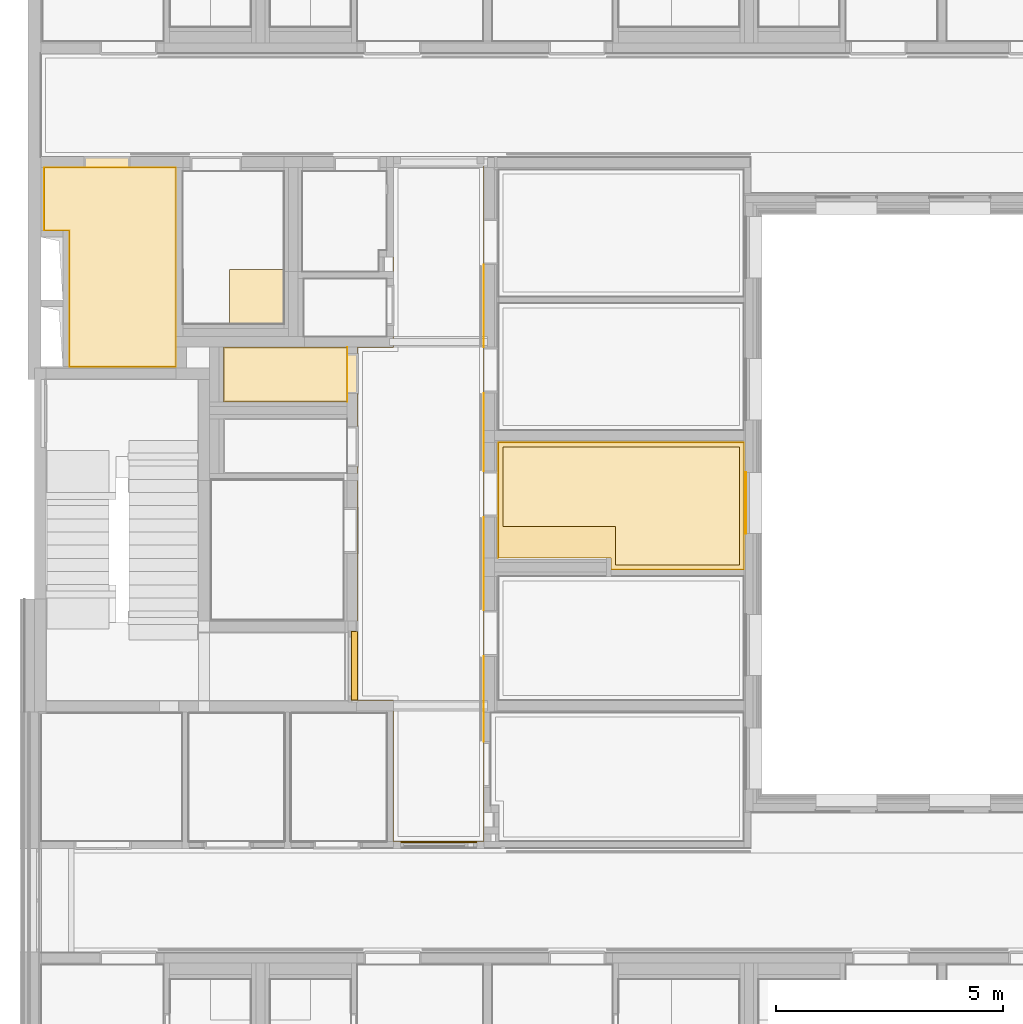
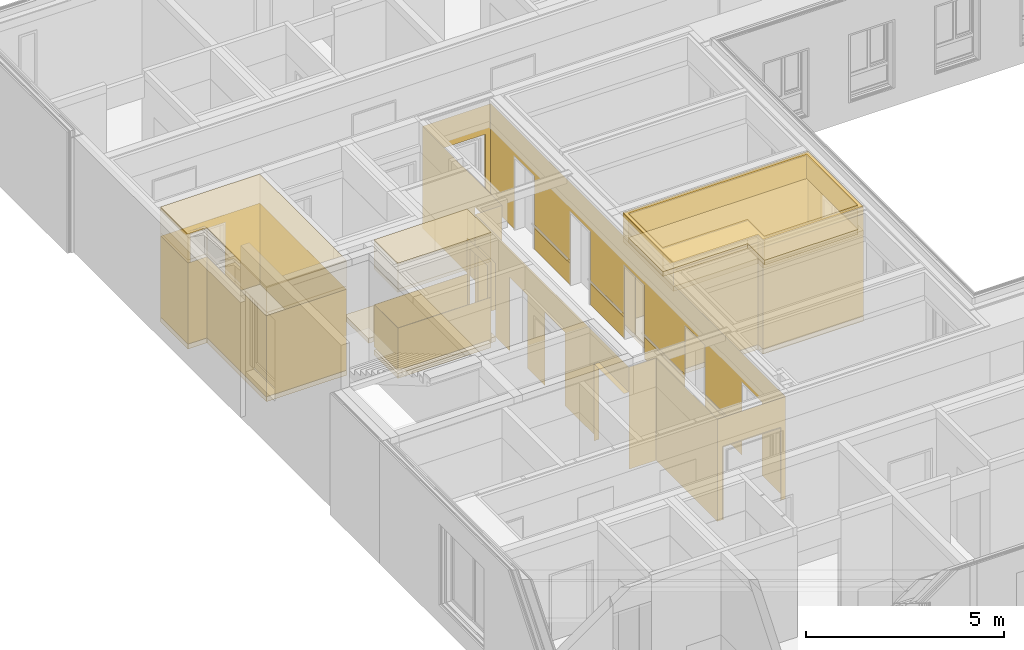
# One storey, part 160 of 222: 24 coverings.
"""IFC4 building model written with IfcOpenShell, lengths in metres."""

from ifc_helpers import new_model, entity, si_unit, converted_unit, derived_unit, frame, frame_2d, origin, origin_with_axes, place, context, subcontext, project, spatial, polyline, rectangle, outline, extrude, material, layer, layer_set, layer_usage, element, save


model = new_model("IFC4")

# Units and contexts
model_context = context("Model", 3, precision=1e-05, world=origin())
body_context = subcontext(model_context, "Body", "Model", "MODEL_VIEW")
ifc_project = project(units=[si_unit("LENGTHUNIT", "METRE"), si_unit("AREAUNIT", "SQUARE_METRE"), si_unit("VOLUMEUNIT", "CUBIC_METRE"), si_unit("MASSUNIT", "GRAM", prefix="KILO"), converted_unit("PLANEANGLEUNIT", "DEGREE", entity("IfcPlaneAngleMeasure", 0.0174532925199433), si_unit("PLANEANGLEUNIT", "RADIAN"), dimensions=[0, 0, 0, 0, 0, 0, 0]), derived_unit("THERMALTRANSMITTANCEUNIT", [(si_unit("POWERUNIT", "WATT"), 1), (si_unit("THERMODYNAMICTEMPERATUREUNIT", "KELVIN"), -1), (si_unit("LENGTHUNIT", "METRE"), -2)]), derived_unit("VOLUMETRICFLOWRATEUNIT", [(si_unit("LENGTHUNIT", "METRE"), 3), (converted_unit("TIMEUNIT", "hour", entity("IfcTimeMeasure", 3600.0), si_unit("TIMEUNIT", "SECOND"), dimensions=[0, 0, 1, 0, 0, 0, 0]), -1), (si_unit("LENGTHUNIT", "METRE"), -1)])], contexts=[model_context])

# Site, building, storey, space
site_placement = place(None, origin())
site = spatial("IfcSite", under=ifc_project, at=site_placement, Name="Psychiatrie Neubau Wunstorf", CompositionType="ELEMENT")
building_placement = place(site_placement, origin())
building = spatial("IfcBuilding", under=site, at=building_placement, Name="Neubau H2 Stationsgebäude", CompositionType="ELEMENT")
storey_placement = place(building_placement, frame((0.0, 0.0, 3.6)))
storey = spatial("IfcBuildingStorey", under=building, at=storey_placement, Name="H2 Ebene +1", CompositionType="ELEMENT", Elevation=3.6)
space_1_placement = place(storey_placement, frame((7.1409987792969, 6.7749998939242, 0.0)))
space_1 = spatial("IfcSpace", under=storey, at=space_1_placement, Name="WUN-H2-E01-073", CompositionType="ELEMENT")

# Coverings
ifc_material_1 = material(Name="97")
ifc_layer_1 = layer(ifc_material_1, 0.001)
ifc_layer_set_1 = layer_set([ifc_layer_1])
ifc_layer_usage_1 = layer_usage(ifc_layer_set_1, "AXIS3", "POSITIVE", 0.0)
covering_1_placement = place(space_1_placement, frame((2.77650123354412, 2.19999999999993, 0.8)))
element("IfcCovering", 1, at=covering_1_placement, inside=space_1, material=ifc_layer_usage_1, Name="Handlauf", PredefinedType="CLADDING", context=body_context, shape_type="SweptSolid", body=[
    extrude(rectangle(XDim=0.1, YDim=2.0539998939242, at=frame_2d((1.0269999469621, 0.05), x_axis=(-1.81898940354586e-14, 1.0))), frame((0.0, 2.88600010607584, 0.1), z_axis=(-1.0, -1.65349244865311e-09, -1.49091137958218e-23), x_axis=(-1.65349244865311e-09, 1.0, 0.0)), (0.0, 0.0, 1.0), 0.001),
    extrude(rectangle(XDim=0.1, YDim=1.87600010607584, at=frame_2d((-0.938000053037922, -0.05), x_axis=(-1.81898940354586e-14, -1.0))), frame((0.0, 1.87600010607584, 0.0), z_axis=(-1.0, -1.65349181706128e-09, -9.09494703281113e-15), x_axis=(-1.65349181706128e-09, 1.0, 0.0)), (0.0, 0.0, 1.0), 0.001),
    extrude(rectangle(XDim=0.1, YDim=1.71901332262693, at=frame_2d((0.859506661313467, 0.05), x_axis=(1.81898940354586e-14, 1.0))), frame((0.0, 5.95000000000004, 0.1), z_axis=(-1.0, -1.65349193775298e-09, -1.50877536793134e-23), x_axis=(-1.65349193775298e-09, 1.0, 0.0)), (0.0, 0.0, 1.0), 0.001),
    extrude(rectangle(XDim=0.1, YDim=1.81398678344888, at=frame_2d((0.906993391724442, 0.05), x_axis=(0.0, 1.0))), frame((0.0, 8.67901332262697, 0.1), z_axis=(-1.0, -1.65349146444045e-09, 0.0), x_axis=(-1.65349146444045e-09, 1.0, 0.0)), (0.0, 0.0, 1.0), 0.001),
])
ifc_material_2 = material(Name="49")
ifc_layer_2 = layer(ifc_material_2, 0.001)
ifc_layer_set_2 = layer_set([ifc_layer_2])
ifc_layer_usage_2 = layer_usage(ifc_layer_set_2, "AXIS3", "POSITIVE", 0.0)
covering_2_placement = place(space_1_placement, frame((-0.145000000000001, -0.0300000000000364, 0.15)))
element("IfcCovering", 2, at=covering_2_placement, inside=space_1, material=ifc_layer_usage_2, PredefinedType="CLADDING", context=body_context, shape_type="SweptSolid", body=[
    extrude(outline(polyline([(0.0, 3.15), (2.66598984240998, 3.15), (2.66598984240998, 0.89), (3.55098994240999, 0.89), (3.55098994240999, 3.15), (4.01598546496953, 3.15), (4.01598546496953, 0.0), (0.0, 0.0), (0.0, 3.15)])), frame((0.929001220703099, 14.9360001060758, 3.15), z_axis=(1.0, -2.25099383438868e-16, -2.97473032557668e-17), x_axis=(-2.25099383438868e-16, -1.0, 0.0)), (0.0, 0.0, 1.0), 0.001),
    extrude(rectangle(XDim=0.0110013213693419, YDim=3.15, at=frame_2d((0.00550066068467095, -1.575), x_axis=(1.0, 0.0))), frame((0.929001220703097, 10.9200146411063, 0.0), z_axis=(0.999999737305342, -0.000724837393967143, 1.00116312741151e-22), x_axis=(-0.000724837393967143, -0.999999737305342, 0.0)), (0.0, 0.0, 1.0), 0.001),
    extrude(rectangle(XDim=0.783993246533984, YDim=3.15, at=frame_2d((0.391996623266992, -1.575), x_axis=(1.0, 0.0))), frame((0.928993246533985, 10.9090133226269, 0.0), z_axis=(0.0, -1.0, 0.0), x_axis=(-1.0, 0.0, 0.0)), (0.0, 0.0, 1.0), 0.001),
    extrude(outline(polyline([(0.0, 3.15), (0.138998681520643, 3.15), (0.138998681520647, 0.89), (1.02399868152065, 0.89), (1.02399868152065, 3.15), (1.74400000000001, 3.15), (1.74400000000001, 0.89), (2.62900000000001, 0.89), (2.62900000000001, 3.15), (3.52901332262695, 3.15), (3.52901332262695, 0.89), (4.53901332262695, 0.89), (4.53901332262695, 3.15), (6.24901332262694, 3.15), (6.24901332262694, 0.77), (7.77201014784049, 0.77), (7.77201014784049, 0.0), (0.0, 0.0), (0.0, 3.15)])), frame((0.144999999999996, 10.9090133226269, 3.15), z_axis=(1.0, -2.99583884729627e-16, 3.14580607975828e-15), x_axis=(-2.99583884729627e-16, -1.0, 0.0)), (0.0, 0.0, 1.0), 0.001),
    extrude(rectangle(XDim=0.784001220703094, YDim=3.15, at=frame_2d((0.392000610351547, -1.575), x_axis=(1.0, 0.0))), frame((0.145000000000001, 3.13700317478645, 0.0), z_axis=(0.0, 1.0, 0.0), x_axis=(1.0, 0.0, 0.0)), (0.0, 0.0, 1.0), 0.001),
    extrude(rectangle(XDim=3.10700317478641, YDim=3.15, at=frame_2d((1.55350158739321, -1.575), x_axis=(1.0, 0.0))), frame((0.929001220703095, 3.13700317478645, 0.0), z_axis=(1.0, -8.78172293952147e-16, 0.0), x_axis=(-8.78172293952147e-16, -1.0, 0.0)), (0.0, 0.0, 1.0), 0.001),
    extrude(rectangle(XDim=0.00500000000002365, YDim=3.15, at=frame_2d((0.00250000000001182, -1.575), x_axis=(1.0, 0.0))), frame((0.929001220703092, 0.0300000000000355, 0.0), z_axis=(-0.999999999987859, 4.9277376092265e-06, 0.0), x_axis=(4.9277376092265e-06, 0.999999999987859, 0.0)), (0.0, 0.0, 1.0), 0.001),
    extrude(outline(polyline([(0.0, 3.15), (0.154999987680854, 3.15), (0.154999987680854, 0.89), (1.83749998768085, 0.89), (1.83749998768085, 3.15), (1.9925, 3.15), (1.9925, 0.0), (0.0, 0.0), (0.0, 3.15)])), frame((0.92900124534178, 0.035, 3.15), z_axis=(0.0, 1.0, 0.0), x_axis=(1.0, 0.0, 0.0)), (0.0, 0.0, 1.0), 0.001),
    extrude(outline(polyline([(0.0, 3.15), (1.18499999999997, 3.15), (1.18499999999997, 0.89), (2.19499999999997, 0.89), (2.19499999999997, 2.4), (4.07100010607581, 2.4), (4.07100010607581, 0.89), (5.08100010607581, 0.89), (5.08100010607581, 2.4), (7.13500000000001, 2.4), (7.13500000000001, 0.89), (8.145, 0.89), (8.14500000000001, 2.4), (9.86401332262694, 2.4), (9.86401332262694, 0.89), (10.8740133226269, 0.89), (10.8740133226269, 2.4), (12.6880001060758, 2.4), (12.6880001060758, 0.89), (13.6980001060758, 0.89), (13.6980001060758, 3.15), (14.9010001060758, 3.15), (14.9010001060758, 0.0), (0.0, 0.0), (0.0, 3.15)])), frame((2.92150124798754, 0.035, 3.15), z_axis=(-1.0, -2.66314327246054e-10, 2.82421597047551e-09), x_axis=(-2.66314327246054e-10, 1.0, 0.0)), (0.0, 0.0, 1.0), 0.001),
    extrude(rectangle(XDim=0.65, YDim=2.0539998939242, at=frame_2d((1.0269999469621, 0.325), x_axis=(2.79844523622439e-15, 1.0))), frame((2.92150123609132, 5.11600010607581, 0.65), z_axis=(-1.0, -8.26745781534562e-10, -1.55377375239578e-08), x_axis=(-8.26745781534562e-10, 1.0, 0.0)), (0.0, 0.0, 1.0), 0.001),
    extrude(rectangle(XDim=0.65, YDim=1.87600010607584, at=frame_2d((0.938000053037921, 0.325), x_axis=(0.0, 1.0))), frame((2.92150124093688, 2.22999999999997, 0.65), z_axis=(-1.0, -8.26746150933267e-10, -7.96983211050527e-09), x_axis=(-8.26746150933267e-10, 1.0, 0.0)), (0.0, 0.0, 1.0), 0.001),
    extrude(rectangle(XDim=0.65, YDim=1.71901332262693, at=frame_2d((0.859506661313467, 0.325), x_axis=(2.7984452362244e-15, 1.0))), frame((2.92150123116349, 8.18, 0.649999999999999), z_axis=(-1.0, -8.2674596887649e-10, -2.29059682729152e-08), x_axis=(-8.2674596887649e-10, 1.0, 0.0)), (0.0, 0.0, 1.0), 0.001),
    extrude(rectangle(XDim=0.650000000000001, YDim=1.81398678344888, at=frame_2d((-0.906993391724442, -0.325), x_axis=(0.0, -1.0))), frame((2.92150124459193, 12.7230001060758, 0.0), z_axis=(-1.0, -8.26746233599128e-10, -2.99689208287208e-08), x_axis=(-8.26746233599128e-10, 1.0, 0.0)), (0.0, 0.0, 1.0), 0.001),
    extrude(outline(polyline([(0.0, 3.15), (0.155000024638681, 3.15), (0.155000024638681, 0.89), (1.83750002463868, 0.89), (1.83750002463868, 3.15), (1.99250002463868, 3.15), (1.99250002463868, 0.0), (0.0, 0.0), (0.0, 3.15)])), frame((2.92150124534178, 14.9360001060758, 3.15), z_axis=(0.0, -1.0, 0.0), x_axis=(-1.0, 0.0, 0.0)), (0.0, 0.0, 1.0), 0.001),
    extrude(rectangle(XDim=1.52299682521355, YDim=0.144999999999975, at=frame_2d((0.0724999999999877, 0.761498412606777), x_axis=(0.0, 1.0))), frame((0.0, 4.66, 2.38), z_axis=(0.0, 0.0, -1.0), x_axis=(1.0, 0.0, 0.0)), (0.0, 0.0, 1.0), 0.001),
    extrude(rectangle(XDim=0.144999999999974, YDim=2.38, at=frame_2d((0.0724999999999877, -1.19), x_axis=(1.0, 0.0))), frame((0.144999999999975, 4.66, 0.0), z_axis=(0.0, -1.0, 0.0), x_axis=(-1.0, 0.0, 0.0)), (0.0, 0.0, 1.0), 0.001),
    extrude(rectangle(XDim=0.035, YDim=2.26, at=frame_2d((0.0175, -1.13), x_axis=(1.0, 0.0))), frame((1.08400123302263, 0.035, 0.0), z_axis=(1.0, 0.0, 0.0), x_axis=(0.0, -1.0, 0.0)), (0.0, 0.0, 1.0), 0.001),
    extrude(rectangle(XDim=1.6825, YDim=0.035, at=frame_2d((-0.84125, 0.0175), x_axis=(-1.0, 0.0))), frame((2.76650123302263, 0.035, 2.26), z_axis=(0.0, 0.0, -1.0), x_axis=(1.0, 0.0, 0.0)), (0.0, 0.0, 1.0), 0.001),
    extrude(rectangle(XDim=2.26, YDim=0.035, at=frame_2d((0.0175, 1.13), x_axis=(0.0, 1.0))), frame((2.76650123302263, 0.0, 2.26), z_axis=(-1.0, 0.0, 0.0), x_axis=(0.0, 1.0, 0.0)), (0.0, 0.0, 1.0), 0.001),
    extrude(rectangle(XDim=0.035, YDim=2.26, at=frame_2d((0.0175, -1.13), x_axis=(1.0, 0.0))), frame((2.7665012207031, 14.9360001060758, 0.0), z_axis=(-1.0, 0.0, 0.0), x_axis=(0.0, 1.0, 0.0)), (0.0, 0.0, 1.0), 0.001),
    extrude(rectangle(XDim=1.6825, YDim=0.035, at=frame_2d((0.84125, -0.0175), x_axis=(1.0, 0.0))), frame((1.0840012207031, 14.9360001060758, 2.26), z_axis=(0.0, 0.0, -1.0), x_axis=(1.0, 0.0, 0.0)), (0.0, 0.0, 1.0), 0.001),
    extrude(rectangle(XDim=2.26, YDim=0.0349999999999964, at=frame_2d((0.0175, 1.13), x_axis=(1.60972513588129e-15, 1.0))), frame((1.0840012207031, 14.9710001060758, 2.26), z_axis=(1.0, 1.29927814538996e-14, -2.01215641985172e-16), x_axis=(1.29927814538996e-14, -1.0, 0.0)), (0.0, 0.0, 1.0), 0.001),
])

# Space
space_2_placement = place(storey_placement, frame((10.2390000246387, 12.761, 0.0)))
space_2 = spatial("IfcSpace", under=storey, at=space_2_placement, Name="WUN-H2-E01-035", CompositionType="ELEMENT")

# Coverings
ifc_material_3 = material()
ifc_layer_3 = layer(ifc_material_3, 0.036)
ifc_layer_set_3 = layer_set([ifc_layer_3])
ifc_layer_usage_3 = layer_usage(ifc_layer_set_3, "AXIS3", "POSITIVE", 0.0)
covering_3_placement = place(space_2_placement, frame((0.1, 0.100000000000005, 3.55)))
element("IfcCovering", 3, at=covering_3_placement, inside=space_2, material=ifc_layer_usage_3, Name="Gipsfaserplatten 2-lagig (BSK)", PredefinedType="CEILING", context=body_context, shape_type="SweptSolid", body=[
    extrude(outline(polyline([(0.0, 0.0), (5.19999997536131, 0.0), (5.19999997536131, 2.5925), (2.4734999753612, 2.5924999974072), (2.4734999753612, 1.74250021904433), (0.0, 1.74250022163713), (0.0, 0.0)])), frame((0.0, 2.5925, 0.0), z_axis=(0.0, 0.0, -1.0), x_axis=(1.0, 0.0, 0.0)), (0.0, 0.0, 1.0), 0.036),
])
ifc_material_4 = material(Name="Installationshöhe")
ifc_layer_4 = layer(ifc_material_4, 0.714)
ifc_layer_set_4 = layer_set([ifc_layer_4])
ifc_layer_usage_4 = layer_usage(ifc_layer_set_4, "AXIS3", "POSITIVE", 0.0)
covering_4_placement = place(space_2_placement, frame((0.1, 0.100000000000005, 3.514)))
element("IfcCovering", 4, at=covering_4_placement, inside=space_2, material=ifc_layer_usage_4, Name="Gipsfaserplatten 2-lagig (BSK)", PredefinedType="CEILING", context=body_context, shape_type="SweptSolid", body=[
    extrude(outline(polyline([(0.0, 0.0), (5.19999997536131, 0.0), (5.19999997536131, 2.5925), (2.4734999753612, 2.5924999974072), (2.4734999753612, 1.74250021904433), (0.0, 1.74250022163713), (0.0, 0.0)])), frame((0.0, 2.5925, 0.0), z_axis=(0.0, 0.0, -1.0), x_axis=(1.0, 0.0, 0.0)), (0.0, 0.0, 1.0), 0.714),
])
ifc_material_5 = material(Name="Aa")
ifc_layer_5 = layer(ifc_material_5, 0.15)
ifc_layer_set_5 = layer_set([ifc_layer_5])
ifc_layer_usage_5 = layer_usage(ifc_layer_set_5, "AXIS3", "POSITIVE", 0.0)
covering_5_placement = place(space_2_placement, frame((0.1, 0.100000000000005, 2.8)))
element("IfcCovering", 5, at=covering_5_placement, inside=space_2, material=ifc_layer_usage_5, Name="Gipsfaserplatten 2-lagig (BSK)", PredefinedType="CEILING", context=body_context, shape_type="SweptSolid", body=[
    extrude(outline(polyline([(0.0, 0.0), (5.19999997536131, 0.0), (5.19999997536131, 2.5925), (2.4734999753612, 2.5924999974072), (2.4734999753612, 1.74250021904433), (0.0, 1.74250022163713), (0.0, 0.0)])), frame((0.0, 2.5925, 0.0), z_axis=(0.0, 0.0, -1.0), x_axis=(1.0, 0.0, 0.0)), (0.0, 0.0, 1.0), 0.15),
])
ifc_material_6 = material(Name="D1")
ifc_layer_6 = layer(ifc_material_6, 0.001)
ifc_layer_set_6 = layer_set([ifc_layer_6])
ifc_layer_usage_6 = layer_usage(ifc_layer_set_6, "AXIS3", "POSITIVE", 0.0)
covering_6_placement = place(space_2_placement, frame((0.1, 0.100000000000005, 2.65)))
element("IfcCovering", 6, at=covering_6_placement, inside=space_2, material=ifc_layer_usage_6, Name="Gipsfaserplatten 2-lagig (BSK)", PredefinedType="CEILING", context=body_context, shape_type="SweptSolid", body=[
    extrude(outline(polyline([(0.0, 0.0), (5.19999997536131, 0.0), (5.19999997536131, 2.5925), (2.4734999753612, 2.5924999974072), (2.4734999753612, 1.74250021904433), (0.0, 1.74250022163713), (0.0, 0.0)])), frame((0.0, 2.5925, 0.0), z_axis=(0.0, 0.0, -1.0), x_axis=(1.0, 0.0, 0.0)), (0.0, 0.0, 1.0), 0.001),
])
ifc_material_7 = material()
ifc_layer_7 = layer(ifc_material_7, 0.036)
ifc_layer_set_7 = layer_set([ifc_layer_7])
ifc_layer_usage_7 = layer_usage(ifc_layer_set_7, "AXIS3", "POSITIVE", 0.0)
covering_7_placement = place(space_2_placement, frame((0.0, 0.0, 3.55)))
element("IfcCovering", 7, at=covering_7_placement, inside=space_2, material=ifc_layer_usage_7, Name="Gipsfaserplatten 2-lagig (BSK)", PredefinedType="CEILING", context=body_context, shape_type="SweptSolid", body=[
    extrude(outline(polyline([(0.0, 0.0), (5.39999997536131, 0.0), (5.39999997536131, 2.7925), (2.4734999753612, 2.7925), (2.4734999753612, 2.54249999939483), (0.0, 2.54249999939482), (0.0, 0.0)]), holes=[polyline([(0.1, 1.84250042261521), (2.5734999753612, 1.84250021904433), (2.5734999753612, 2.6924999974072), (5.29999997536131, 2.6925), (5.29999997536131, 0.1), (0.1, 0.1), (0.1, 1.84250042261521)])]), frame((0.0, 2.7925, 0.0), z_axis=(0.0, 0.0, -1.0), x_axis=(1.0, 0.0, 0.0)), (0.0, 0.0, 1.0), 0.036),
])
ifc_material_8 = material(Name="Installationshöhe")
ifc_layer_8 = layer(ifc_material_8, 0.714)
ifc_layer_set_8 = layer_set([ifc_layer_8])
ifc_layer_usage_8 = layer_usage(ifc_layer_set_8, "AXIS3", "POSITIVE", 0.0)
covering_8_placement = place(space_2_placement, frame((0.0, 0.0, 3.514)))
element("IfcCovering", 8, at=covering_8_placement, inside=space_2, material=ifc_layer_usage_8, Name="Gipsfaserplatten 2-lagig (BSK)", PredefinedType="CEILING", context=body_context, shape_type="SweptSolid", body=[
    extrude(outline(polyline([(0.0, 0.0), (5.39999997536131, 0.0), (5.39999997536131, 2.7925), (2.4734999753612, 2.7925), (2.4734999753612, 2.54249999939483), (0.0, 2.54249999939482), (0.0, 0.0)]), holes=[polyline([(0.1, 1.84250042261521), (2.5734999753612, 1.84250021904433), (2.5734999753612, 2.6924999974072), (5.29999997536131, 2.6925), (5.29999997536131, 0.1), (0.1, 0.1), (0.1, 1.84250042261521)])]), frame((0.0, 2.7925, 0.0), z_axis=(0.0, 0.0, -1.0), x_axis=(1.0, 0.0, 0.0)), (0.0, 0.0, 1.0), 0.714),
])
ifc_material_9 = material(Name="A1")
ifc_layer_9 = layer(ifc_material_9, 0.15)
ifc_layer_set_9 = layer_set([ifc_layer_9])
ifc_layer_usage_9 = layer_usage(ifc_layer_set_9, "AXIS3", "POSITIVE", 0.0)
covering_9_placement = place(space_2_placement, frame((0.0, 0.0, 2.8)))
element("IfcCovering", 9, at=covering_9_placement, inside=space_2, material=ifc_layer_usage_9, Name="Gipsfaserplatten 2-lagig (BSK)", PredefinedType="CEILING", context=body_context, shape_type="SweptSolid", body=[
    extrude(outline(polyline([(0.0, 0.0), (5.39999997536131, 0.0), (5.39999997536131, 2.7925), (2.4734999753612, 2.7925), (2.4734999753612, 2.54249999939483), (0.0, 2.54249999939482), (0.0, 0.0)]), holes=[polyline([(0.1, 1.84250042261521), (2.5734999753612, 1.84250021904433), (2.5734999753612, 2.6924999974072), (5.29999997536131, 2.6925), (5.29999997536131, 0.1), (0.1, 0.1), (0.1, 1.84250042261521)])]), frame((0.0, 2.7925, 0.0), z_axis=(0.0, 0.0, -1.0), x_axis=(1.0, 0.0, 0.0)), (0.0, 0.0, 1.0), 0.15),
])
ifc_material_10 = material(Name="D1")
ifc_layer_10 = layer(ifc_material_10, 0.001)
ifc_layer_set_10 = layer_set([ifc_layer_10])
ifc_layer_usage_10 = layer_usage(ifc_layer_set_10, "AXIS3", "POSITIVE", 0.0)
covering_10_placement = place(space_2_placement, frame((0.0, 0.0, 2.65)))
element("IfcCovering", 10, at=covering_10_placement, inside=space_2, material=ifc_layer_usage_10, Name="Gipsfaserplatten 2-lagig (BSK)", PredefinedType="CEILING", context=body_context, shape_type="SweptSolid", body=[
    extrude(outline(polyline([(0.0, 0.0), (5.39999997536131, 0.0), (5.39999997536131, 2.7925), (2.4734999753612, 2.7925), (2.4734999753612, 2.54249999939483), (0.0, 2.54249999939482), (0.0, 0.0)]), holes=[polyline([(0.1, 1.84250042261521), (2.5734999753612, 1.84250021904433), (2.5734999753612, 2.6924999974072), (5.29999997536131, 2.6925), (5.29999997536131, 0.1), (0.1, 0.1), (0.1, 1.84250042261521)])]), frame((0.0, 2.7925, 0.0), z_axis=(0.0, 0.0, -1.0), x_axis=(1.0, 0.0, 0.0)), (0.0, 0.0, 1.0), 0.001),
])
ifc_material_11 = material(Name="Ku1")
ifc_layer_11 = layer(ifc_material_11, 0.15)
ifc_layer_set_11 = layer_set([ifc_layer_11])
ifc_layer_usage_11 = layer_usage(ifc_layer_set_11, "AXIS3", "POSITIVE", 0.0)
covering_11_placement = place(space_2_placement, origin())
element("IfcCovering", 11, at=covering_11_placement, inside=space_2, material=ifc_layer_usage_11, Name="PVC Bahnenware Holzoptik", PredefinedType="FLOORING", context=body_context, shape_type="SweptSolid", body=[
    extrude(outline(polyline([(2.4734999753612, 0.250000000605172), (2.4734999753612, 0.0), (5.39999997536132, 0.0), (5.39999997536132, 2.7925), (0.0, 2.7925), (0.0, 0.250000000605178), (2.4734999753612, 0.250000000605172)])), origin_with_axes(), (0.0, 0.0, 1.0), 0.15),
])
ifc_material_12 = material(Name="49")
ifc_layer_12 = layer(ifc_material_12, 0.001)
ifc_layer_set_12 = layer_set([ifc_layer_12])
ifc_layer_usage_12 = layer_usage(ifc_layer_set_12, "AXIS3", "POSITIVE", 0.0)
covering_12_placement = place(space_2_placement, frame((0.0, 0.0, 0.15)))
element("IfcCovering", 12, at=covering_12_placement, inside=space_2, material=ifc_layer_usage_12, PredefinedType="CLADDING", context=body_context, shape_type="SweptSolid", body=[
    extrude(outline(polyline([(0.0, 3.15), (0.628500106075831, 3.15), (0.628500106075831, 0.89), (1.63850010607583, 0.89), (1.63850010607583, 3.15), (2.54249999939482, 3.15), (2.54249999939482, 0.0), (0.0, 0.0), (0.0, 3.15)])), frame((0.0, 2.7925, 3.15), z_axis=(1.0, 0.0, -2.05836041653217e-16), x_axis=(0.0, -1.0, 0.0)), (0.0, 0.0, 1.0), 0.001),
    extrude(rectangle(XDim=2.4734999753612, YDim=3.15, at=frame_2d((1.2367499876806, -1.575), x_axis=(1.0, 0.0))), frame((0.0, 0.250000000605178, 0.0), z_axis=(2.20617273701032e-15, 1.0, 0.0), x_axis=(1.0, -2.20617273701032e-15, 0.0)), (0.0, 0.0, 1.0), 0.001),
    extrude(rectangle(XDim=0.250000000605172, YDim=3.15, at=frame_2d((0.125000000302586, -1.575), x_axis=(1.0, 0.0))), frame((2.4734999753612, 0.250000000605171, 0.0), z_axis=(1.0, 0.0, 0.0), x_axis=(0.0, -1.0, 0.0)), (0.0, 0.0, 1.0), 0.001),
    extrude(rectangle(XDim=2.92650000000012, YDim=3.15, at=frame_2d((1.46325000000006, -1.575), x_axis=(1.0, 0.0))), frame((2.4734999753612, 0.0, 0.0), z_axis=(-1.8646739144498e-15, 1.0, 0.0), x_axis=(1.0, 1.8646739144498e-15, 0.0)), (0.0, 0.0, 1.0), 0.001),
    extrude(outline(polyline([(0.0, 3.15), (2.7925, 3.15), (2.7925, 0.0), (0.0, 0.0), (0.0, 3.15)]), holes=[polyline([(2.13899999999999, 2.75), (0.788999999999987, 2.75), (0.788999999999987, 0.635), (2.13899999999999, 0.635), (2.13899999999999, 2.75)])]), frame((5.39999997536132, 0.0, 3.15), z_axis=(-1.0, 0.0, 0.0), x_axis=(0.0, 1.0, 0.0)), (0.0, 0.0, 1.0), 0.001),
    extrude(rectangle(XDim=5.39999997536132, YDim=3.15, at=frame_2d((2.69999998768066, -1.575), x_axis=(1.0, 0.0))), frame((5.39999997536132, 2.7925, 0.0), z_axis=(0.0, -1.0, 0.0), x_axis=(-1.0, 0.0, 0.0)), (0.0, 0.0, 1.0), 0.001),
    extrude(rectangle(XDim=1.35, YDim=0.05, at=frame_2d((-0.025, -0.675000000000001), x_axis=(0.0, -1.0))), frame((5.44999997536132, 0.788999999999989, 2.515), z_axis=(0.0, 0.0, -1.0), x_axis=(1.0, 0.0, 0.0)), (0.0, 0.0, 1.0), 0.001),
    extrude(rectangle(XDim=2.115, YDim=0.05, at=frame_2d((-0.025, -1.0575), x_axis=(0.0, -1.0))), frame((5.44999997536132, 0.788999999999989, 0.4), z_axis=(3.63797880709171e-14, 1.0, 0.0), x_axis=(1.0, -3.63797880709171e-14, 0.0)), (0.0, 0.0, 1.0), 0.001),
    extrude(rectangle(XDim=2.115, YDim=0.05, at=frame_2d((-0.025, -1.0575), x_axis=(0.0, -1.0))), frame((5.39999997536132, 2.13899999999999, 0.4), z_axis=(3.63797880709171e-14, -1.0, 0.0), x_axis=(-1.0, -3.63797880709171e-14, 0.0)), (0.0, 0.0, 1.0), 0.001),
])

# Space
space_3_placement = place(storey_placement, frame((0.244000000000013, 17.2249998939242, 0.0)))
space_3 = spatial("IfcSpace", under=storey, at=space_3_placement, Name="WUN-H2-E01-040", CompositionType="ELEMENT")

# Coverings
ifc_material_13 = material(Name="Ku2")
ifc_layer_13 = layer(ifc_material_13, 0.15)
ifc_layer_set_13 = layer_set([ifc_layer_13])
ifc_layer_usage_13 = layer_usage(ifc_layer_set_13, "AXIS3", "POSITIVE", 0.0)
covering_13_placement = place(space_3_placement, origin())
element("IfcCovering", 13, at=covering_13_placement, inside=space_3, material=ifc_layer_usage_13, Name="PVC Bahnenware Uni", PredefinedType="FLOORING", context=body_context, shape_type="SweptSolid", body=[
    extrude(rectangle(XDim=0.232, YDim=1.01, at=frame_2d((0.504999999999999, -0.116), x_axis=(-4.90029472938e-15, -1.0))), frame((0.87345468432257, 4.61100010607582, 0.0), z_axis=(0.0, 0.0, 1.0), x_axis=(1.0, 0.0, 0.0)), (0.0, 0.0, 1.0), 0.15),
    extrude(outline(polyline([(0.554999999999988, 0.0), (2.89499999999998, 0.0), (2.89499999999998, 4.37900010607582), (0.0, 4.37900010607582), (0.0, 2.99999963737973), (0.554999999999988, 2.99999963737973), (0.554999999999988, 0.0)])), origin_with_axes(), (0.0, 0.0, 1.0), 0.15),
])
ifc_material_14 = material()
ifc_layer_14 = layer(ifc_material_14, 0.036)
ifc_layer_set_14 = layer_set([ifc_layer_14])
ifc_layer_usage_14 = layer_usage(ifc_layer_set_14, "AXIS3", "POSITIVE", 0.0)
covering_14_placement = place(space_3_placement, frame((0.0, 0.0, 3.55)))
element("IfcCovering", 14, at=covering_14_placement, inside=space_3, material=ifc_layer_usage_14, Name="Gipsfaserplatten 2-lagig (BSK)", PredefinedType="CEILING", context=body_context, shape_type="SweptSolid", body=[
    extrude(outline(polyline([(2.89499999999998, 4.37900010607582), (0.554999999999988, 4.37900010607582), (0.554999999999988, 1.3790004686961), (0.0, 1.3790004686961), (0.0, 0.0), (2.89499999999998, 0.0), (2.89499999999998, 4.37900010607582)])), frame((0.0, 4.37900010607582, 0.0), z_axis=(0.0, 0.0, -1.0), x_axis=(1.0, 0.0, 0.0)), (0.0, 0.0, 1.0), 0.036),
])
ifc_material_15 = material(Name="Installationshöhe")
ifc_layer_15 = layer(ifc_material_15, 0.764)
ifc_layer_set_15 = layer_set([ifc_layer_15])
ifc_layer_usage_15 = layer_usage(ifc_layer_set_15, "AXIS3", "POSITIVE", 0.0)
covering_15_placement = place(space_3_placement, frame((0.0, 0.0, 3.514)))
element("IfcCovering", 15, at=covering_15_placement, inside=space_3, material=ifc_layer_usage_15, Name="Gipsfaserplatten 2-lagig (BSK)", PredefinedType="CEILING", context=body_context, shape_type="SweptSolid", body=[
    extrude(outline(polyline([(2.89499999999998, 4.37900010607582), (0.554999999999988, 4.37900010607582), (0.554999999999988, 1.3790004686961), (0.0, 1.3790004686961), (0.0, 0.0), (2.89499999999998, 0.0), (2.89499999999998, 4.37900010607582)])), frame((0.0, 4.37900010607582, 0.0), z_axis=(0.0, 0.0, -1.0), x_axis=(1.0, 0.0, 0.0)), (0.0, 0.0, 1.0), 0.764),
])
ifc_material_16 = material(Name="E3")
ifc_layer_16 = layer(ifc_material_16, 0.1)
ifc_layer_set_16 = layer_set([ifc_layer_16])
ifc_layer_usage_16 = layer_usage(ifc_layer_set_16, "AXIS3", "POSITIVE", 0.0)
covering_16_placement = place(space_3_placement, frame((0.0, 0.0, 2.75)))
element("IfcCovering", 16, at=covering_16_placement, inside=space_3, material=ifc_layer_usage_16, Name="Rasterdecke", PredefinedType="CEILING", context=body_context, shape_type="SweptSolid", body=[
    extrude(outline(polyline([(2.89499999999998, 4.37900010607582), (0.554999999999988, 4.37900010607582), (0.554999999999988, 1.3790004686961), (0.0, 1.3790004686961), (0.0, 0.0), (2.89499999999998, 0.0), (2.89499999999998, 4.37900010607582)])), frame((0.0, 4.37900010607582, 0.0), z_axis=(0.0, 0.0, -1.0), x_axis=(1.0, 0.0, 0.0)), (0.0, 0.0, 1.0), 0.1),
])
ifc_material_17 = material(Name="50")
ifc_layer_17 = layer(ifc_material_17, 0.001)
ifc_layer_set_17 = layer_set([ifc_layer_17])
ifc_layer_usage_17 = layer_usage(ifc_layer_set_17, "AXIS3", "POSITIVE", 0.0)
covering_17_placement = place(space_3_placement, frame((0.0, 0.0, 0.15)))
element("IfcCovering", 17, at=covering_17_placement, inside=space_3, material=ifc_layer_usage_17, PredefinedType="CLADDING", context=body_context, shape_type="SweptSolid", body=[
    extrude(rectangle(XDim=0.554999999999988, YDim=2.5, at=frame_2d((0.277499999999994, -1.25), x_axis=(1.0, 0.0))), frame((0.0, 2.99999963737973, 0.0), z_axis=(0.0, 1.0, 0.0), x_axis=(1.0, 0.0, 0.0)), (0.0, 0.0, 1.0), 0.001),
    extrude(rectangle(XDim=2.99999963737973, YDim=2.5, at=frame_2d((1.49999981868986, -1.25), x_axis=(1.0, 0.0))), frame((0.554999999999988, 2.99999963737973, 0.0), z_axis=(1.0, 0.0, 0.0), x_axis=(0.0, -1.0, 0.0)), (0.0, 0.0, 1.0), 0.001),
    extrude(rectangle(XDim=2.33999999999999, YDim=2.5, at=frame_2d((1.17, -1.25), x_axis=(1.0, 0.0))), frame((0.554999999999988, 0.0, 0.0), z_axis=(0.0, 1.0, 0.0), x_axis=(1.0, 0.0, 0.0)), (0.0, 0.0, 1.0), 0.001),
    extrude(rectangle(XDim=4.37900010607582, YDim=2.5, at=frame_2d((2.18950005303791, -1.25), x_axis=(1.0, 0.0))), frame((2.89499999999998, 0.0, 0.0), z_axis=(-1.0, 0.0, 0.0), x_axis=(0.0, 1.0, 0.0)), (0.0, 0.0, 1.0), 0.001),
    extrude(outline(polyline([(0.0, 2.5), (1.01154531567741, 2.5), (1.01154531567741, 0.24), (2.02154531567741, 0.24), (2.02154531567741, 2.5), (2.89499999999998, 2.5), (2.89499999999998, 0.0), (0.0, 0.0), (0.0, 2.5)])), frame((2.89499999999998, 4.37900010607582, 2.5), z_axis=(0.0, -1.0, 0.0), x_axis=(-1.0, 0.0, 0.0)), (0.0, 0.0, 1.0), 0.001),
    extrude(rectangle(XDim=1.3790004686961, YDim=2.5, at=frame_2d((0.689500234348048, -1.25), x_axis=(1.0, 0.0))), frame((0.0, 4.37900010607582, 0.0), z_axis=(1.0, 0.0, 0.0), x_axis=(0.0, -1.0, 0.0)), (0.0, 0.0, 1.0), 0.001),
])

# Space
space_4_placement = place(storey_placement, frame((3.28900622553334, 18.1609747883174, 0.0)))
space_4 = spatial("IfcSpace", under=storey, at=space_4_placement, Name="WUN-H2-E01-039", CompositionType="ELEMENT")

# Covering
ifc_material_18 = material(Name="Fl2")
ifc_layer_18 = layer(ifc_material_18, 0.15)
ifc_layer_set_18 = layer_set([ifc_layer_18])
ifc_layer_usage_18 = layer_usage(ifc_layer_set_18, "AXIS3", "POSITIVE", 0.0)
covering_18_placement = place(space_4_placement, frame((1.03100076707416, 0.0, 0.0)))
element("IfcCovering", 18, at=covering_18_placement, inside=space_4, material=ifc_layer_usage_18, Name="Fliesen Mosaik", PredefinedType="FLOORING", context=body_context, shape_type="SweptSolid", body=[
    extrude(outline(polyline([(1.20039264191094, 0.0), (1.2, 1.2), (0.0, 1.2), (0.0, 0.0), (1.20039264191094, 0.0)])), origin_with_axes(), (0.0, 0.0, 1.0), 0.15),
])

# Space
space_5_placement = place(storey_placement, frame((4.19, 16.4520132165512, 0.0)))
space_5 = spatial("IfcSpace", under=storey, at=space_5_placement, Name="WUN-H2-E01-031", CompositionType="ELEMENT")

# Coverings
ifc_material_19 = material(Name="Fl1")
ifc_layer_19 = layer(ifc_material_19, 0.15)
ifc_layer_set_19 = layer_set([ifc_layer_19])
ifc_layer_usage_19 = layer_usage(ifc_layer_set_19, "AXIS3", "POSITIVE", 0.0)
covering_19_placement = place(space_5_placement, origin())
element("IfcCovering", 19, at=covering_19_placement, inside=space_5, material=ifc_layer_usage_19, Name="Fliesen", PredefinedType="FLOORING", context=body_context, shape_type="SweptSolid", body=[
    extrude(rectangle(XDim=0.232, YDim=0.885, at=frame_2d((0.116, 0.4425), x_axis=(1.0, 0.0))), frame((2.7189987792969, 0.178001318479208, 0.0), z_axis=(0.0, 0.0, 1.0), x_axis=(1.0, 0.0, 0.0)), (0.0, 0.0, 1.0), 0.15),
    extrude(rectangle(XDim=1.20199999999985, YDim=2.7189987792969, at=frame_2d((1.35949938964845, -0.600999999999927), x_axis=(-7.56651166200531e-16, -1.0))), frame((0.0, 1.20199999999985, 0.0), z_axis=(0.0, 0.0, 1.0), x_axis=(1.0, 0.0, 0.0)), (0.0, 0.0, 1.0), 0.15),
])
ifc_material_20 = material()
ifc_layer_20 = layer(ifc_material_20, 0.036)
ifc_layer_set_20 = layer_set([ifc_layer_20])
ifc_layer_usage_20 = layer_usage(ifc_layer_set_20, "AXIS3", "POSITIVE", 0.0)
covering_20_placement = place(space_5_placement, frame((0.0, 0.0, 3.55)))
element("IfcCovering", 20, at=covering_20_placement, inside=space_5, material=ifc_layer_usage_20, Name="Gipsfaserplatten 2-lagig (BSK)", PredefinedType="CEILING", context=body_context, shape_type="SweptSolid", body=[
    extrude(rectangle(XDim=1.20199999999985, YDim=2.7189987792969, at=frame_2d((1.35949938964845, -0.600999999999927), x_axis=(7.56651166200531e-16, -1.0))), frame((0.0, 0.0, 0.0), z_axis=(0.0, 0.0, -1.0), x_axis=(1.0, 0.0, 0.0)), (0.0, 0.0, 1.0), 0.036),
])
ifc_material_21 = material(Name="Installationshöhe")
ifc_layer_21 = layer(ifc_material_21, 0.764)
ifc_layer_set_21 = layer_set([ifc_layer_21])
ifc_layer_usage_21 = layer_usage(ifc_layer_set_21, "AXIS3", "POSITIVE", 0.0)
covering_21_placement = place(space_5_placement, frame((0.0, 0.0, 3.514)))
element("IfcCovering", 21, at=covering_21_placement, inside=space_5, material=ifc_layer_usage_21, Name="Gipsfaserplatten 2-lagig (BSK)", PredefinedType="CEILING", context=body_context, shape_type="SweptSolid", body=[
    extrude(rectangle(XDim=1.20199999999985, YDim=2.7189987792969, at=frame_2d((1.35949938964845, -0.600999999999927), x_axis=(7.56651166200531e-16, -1.0))), frame((0.0, 0.0, 0.0), z_axis=(0.0, 0.0, -1.0), x_axis=(1.0, 0.0, 0.0)), (0.0, 0.0, 1.0), 0.764),
])
ifc_material_22 = material(Name="E3")
ifc_layer_22 = layer(ifc_material_22, 0.1)
ifc_layer_set_22 = layer_set([ifc_layer_22])
ifc_layer_usage_22 = layer_usage(ifc_layer_set_22, "AXIS3", "POSITIVE", 0.0)
covering_22_placement = place(space_5_placement, frame((0.0, 0.0, 2.75)))
element("IfcCovering", 22, at=covering_22_placement, inside=space_5, material=ifc_layer_usage_22, Name="Rasterdecke", PredefinedType="CEILING", context=body_context, shape_type="SweptSolid", body=[
    extrude(rectangle(XDim=1.20199999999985, YDim=2.7189987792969, at=frame_2d((1.35949938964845, -0.600999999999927), x_axis=(7.56651166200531e-16, -1.0))), frame((0.0, 0.0, 0.0), z_axis=(0.0, 0.0, -1.0), x_axis=(1.0, 0.0, 0.0)), (0.0, 0.0, 1.0), 0.1),
])
ifc_material_23 = material(Name="50")
ifc_layer_23 = layer(ifc_material_23, 0.001)
ifc_layer_set_23 = layer_set([ifc_layer_23])
ifc_layer_usage_23 = layer_usage(ifc_layer_set_23, "AXIS3", "POSITIVE", 0.0)
covering_23_placement = place(space_5_placement, frame((2.7189987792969, 0.0, 0.15)))
element("IfcCovering", 23, at=covering_23_placement, inside=space_5, material=ifc_layer_usage_23, PredefinedType="CLADDING", context=body_context, shape_type="SweptSolid", body=[
    extrude(outline(polyline([(1.20199999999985, 2.5), (1.20199999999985, 0.0), (0.0, 0.0), (0.0, 2.5), (0.178001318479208, 2.5), (0.178001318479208, 0.24), (1.06300131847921, 0.24), (1.06300131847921, 2.5), (1.20199999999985, 2.5)])), frame((0.0, 0.0, 2.5), z_axis=(-1.0, 0.0, -4.07344632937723e-16), x_axis=(0.0, 1.0, 0.0)), (0.0, 0.0, 1.0), 0.001),
])
ifc_material_24 = material(Name="65")
ifc_layer_24 = layer(ifc_material_24, 0.01)
ifc_layer_set_24 = layer_set([ifc_layer_24])
ifc_layer_usage_24 = layer_usage(ifc_layer_set_24, "AXIS3", "POSITIVE", 0.0)
covering_24_placement = place(space_5_placement, frame((0.0, 0.0, 0.25)))
element("IfcCovering", 24, at=covering_24_placement, inside=space_5, material=ifc_layer_usage_24, Name="a-sh Wandbelag", PredefinedType="CLADDING", context=body_context, shape_type="SweptSolid", body=[
    extrude(rectangle(XDim=2.7189987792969, YDim=1.3, at=frame_2d((1.35949938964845, -0.65), x_axis=(1.0, 0.0))), frame((2.7189987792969, 1.20199999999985, 0.0), z_axis=(0.0, -1.0, 0.0), x_axis=(-1.0, 0.0, 0.0)), (0.0, 0.0, 1.0), 0.01),
    extrude(rectangle(XDim=2.7189987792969, YDim=1.3, at=frame_2d((1.35949938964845, -0.65), x_axis=(1.0, 0.0))), frame((0.0, 0.0, 0.0), z_axis=(0.0, 1.0, 0.0), x_axis=(1.0, 0.0, 0.0)), (0.0, 0.0, 1.0), 0.01),
    extrude(rectangle(XDim=1.20199999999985, YDim=1.3, at=frame_2d((0.600999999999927, -0.65), x_axis=(1.0, 0.0))), frame((0.0, 1.20199999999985, 0.0), z_axis=(1.0, 0.0, 0.0), x_axis=(0.0, -1.0, 0.0)), (0.0, 0.0, 1.0), 0.01),
])

save(model, "model.ifc")
